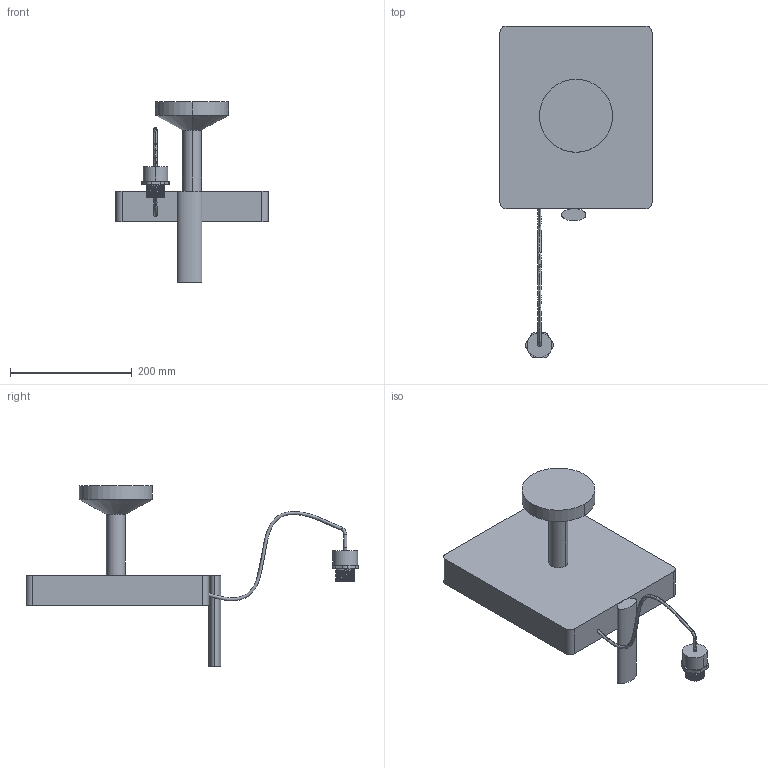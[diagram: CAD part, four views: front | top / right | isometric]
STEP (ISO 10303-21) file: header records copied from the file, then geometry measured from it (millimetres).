
FILE_DESCRIPTION((''),'2;1');
FILE_NAME('ASM0006_ASM','2025-12-29T15:17:28',('28740194'),(''),'CREO PARAMETRIC BY PTC INC, 2024063','CREO PARAMETRIC BY PTC INC, 2024063','');
FILE_SCHEMA(('CONFIG_CONTROL_DESIGN'));
Length unit declared in the file: millimetre
Products named in the file (3): KUS660; 55000; ASM0006_ASM
Assembly tree (2 placements, depth 2):
  ASM0006_ASM
    KUS660
    55000
Bounding box: 250 x 545.45 x 297.34 mm (x, y, z)
Volume: 4360385.3 mm3; surface area: 277199.3 mm2
Topology: 3 solids, 3 shells, 481 faces, 1351 edges, 896 vertices
Faces by surface type: plane 426, cylinder 36, bspline 15, cone 2, extrusion 2
Entity records: 18854 total; most frequent: CARTESIAN_POINT 6480, ORIENTED_EDGE 2702, DIRECTION 2268, EDGE_CURVE 1351, VECTOR 1248, LINE 1246, VERTEX_POINT 896, AXIS2_PLACEMENT_3D 510
